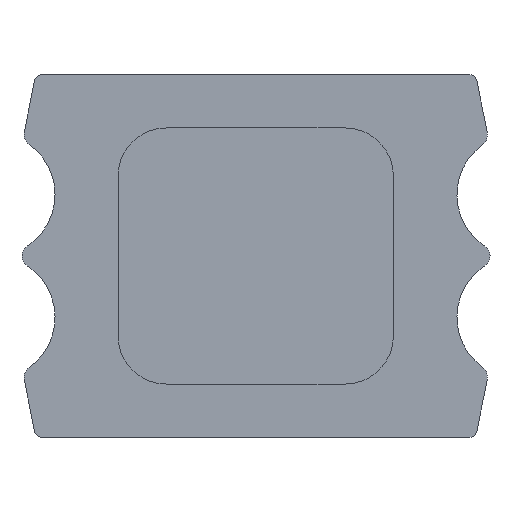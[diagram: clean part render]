
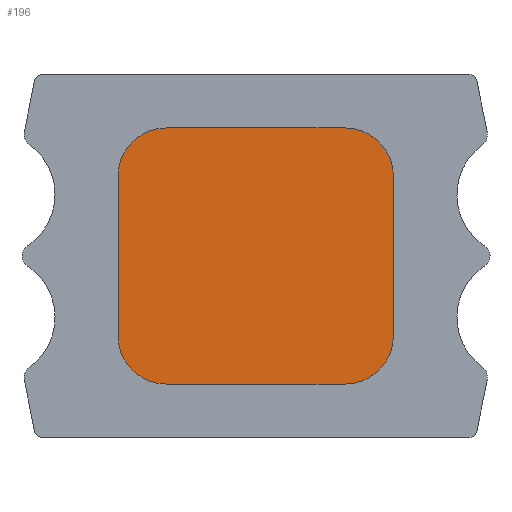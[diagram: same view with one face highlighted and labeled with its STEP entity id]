
A CAD part, left-side view. The second image highlights one B-rep face of the part: STEP entity #196.
In plain terms, the highlighted planar face has unit normal (-1, 0, 0).
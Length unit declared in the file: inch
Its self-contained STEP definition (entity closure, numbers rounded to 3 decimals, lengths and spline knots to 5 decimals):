
#1 = LINE ( 'NONE', #42, #199 ) ;
#42 = CARTESIAN_POINT ( 'NONE',  ( -3.14567, 5.38568, -5.10086 ) ) ;
#51 = CIRCLE ( 'NONE', #867, 0.07874 ) ;
#77 = VERTEX_POINT ( 'NONE', #106 ) ;
#88 = ORIENTED_EDGE ( 'NONE', *, *, #830, .F. ) ;
#106 = CARTESIAN_POINT ( 'NONE',  ( -3.14567, 5.46442, -5.43944 ) ) ;
#107 = VERTEX_POINT ( 'NONE', #180 ) ;
#140 = EDGE_CURVE ( 'NONE', #888, #77, #51, .T. ) ;
#150 = CARTESIAN_POINT ( 'NONE',  ( -3.14567, 5.8345, -5.10086 ) ) ;
#180 = CARTESIAN_POINT ( 'NONE',  ( -3.14567, 5.46442, -5.02212 ) ) ;
#196 = ADVANCED_FACE ( 'NONE', ( #591 ), #473, .T. ) ;
#199 = VECTOR ( 'NONE', #683, 39.37008 ) ;
#285 = ORIENTED_EDGE ( 'NONE', *, *, #895, .F. ) ;
#288 = EDGE_CURVE ( 'NONE', #579, #107, #346, .T. ) ;
#300 = EDGE_CURVE ( 'NONE', #464, #579, #569, .T. ) ;
#307 = DIRECTION ( 'NONE',  ( 0., 0., 1. ) ) ;
#314 = EDGE_CURVE ( 'NONE', #77, #586, #437, .T. ) ;
#338 = VECTOR ( 'NONE', #679, 39.37008 ) ;
#346 = LINE ( 'NONE', #960, #906 ) ;
#359 = CARTESIAN_POINT ( 'NONE',  ( -3.14567, 5.46442, -5.10086 ) ) ;
#372 = ORIENTED_EDGE ( 'NONE', *, *, #922, .F. ) ;
#380 = VERTEX_POINT ( 'NONE', #634 ) ;
#401 = CARTESIAN_POINT ( 'NONE',  ( -3.14567, 5.8345, -5.3607 ) ) ;
#415 = CARTESIAN_POINT ( 'NONE',  ( -3.14567, 5.38568, -5.02212 ) ) ;
#418 = ORIENTED_EDGE ( 'NONE', *, *, #314, .F. ) ;
#437 = LINE ( 'NONE', #908, #338 ) ;
#438 = DIRECTION ( 'NONE',  ( 1., 0., 0. ) ) ;
#441 = DIRECTION ( 'NONE',  ( 0., 0., 1. ) ) ;
#458 = DIRECTION ( 'NONE',  ( 0., 0., 1. ) ) ;
#464 = VERTEX_POINT ( 'NONE', #939 ) ;
#473 = PLANE ( 'NONE',  #853 ) ;
#492 = DIRECTION ( 'NONE',  ( -1., 0., 0. ) ) ;
#499 = DIRECTION ( 'NONE',  ( 0., 0., 1. ) ) ;
#517 = DIRECTION ( 'NONE',  ( 1., 0., 0. ) ) ;
#518 = CIRCLE ( 'NONE', #803, 0.07874 ) ;
#526 = CARTESIAN_POINT ( 'NONE',  ( -3.14567, 5.46442, -5.3607 ) ) ;
#549 = ORIENTED_EDGE ( 'NONE', *, *, #731, .F. ) ;
#566 = LINE ( 'NONE', #150, #948 ) ;
#569 = CIRCLE ( 'NONE', #845, 0.07874 ) ;
#579 = VERTEX_POINT ( 'NONE', #918 ) ;
#586 = VERTEX_POINT ( 'NONE', #598 ) ;
#591 = FACE_OUTER_BOUND ( 'NONE', #821, .T. ) ;
#598 = CARTESIAN_POINT ( 'NONE',  ( -3.14567, 5.75576, -5.43944 ) ) ;
#617 = VERTEX_POINT ( 'NONE', #401 ) ;
#626 = DIRECTION ( 'NONE',  ( 0., -1., 0. ) ) ;
#634 = CARTESIAN_POINT ( 'NONE',  ( -3.14567, 5.38568, -5.10086 ) ) ;
#645 = ORIENTED_EDGE ( 'NONE', *, *, #288, .F. ) ;
#679 = DIRECTION ( 'NONE',  ( 0., 1., 0. ) ) ;
#683 = DIRECTION ( 'NONE',  ( 0., 0., -1. ) ) ;
#694 = ORIENTED_EDGE ( 'NONE', *, *, #300, .F. ) ;
#731 = EDGE_CURVE ( 'NONE', #586, #617, #518, .T. ) ;
#766 = AXIS2_PLACEMENT_3D ( 'NONE', #359, #975, #441 ) ;
#778 = CARTESIAN_POINT ( 'NONE',  ( -3.14567, 5.75576, -5.10086 ) ) ;
#783 = DIRECTION ( 'NONE',  ( 1., 0., 0. ) ) ;
#802 = CIRCLE ( 'NONE', #766, 0.07874 ) ;
#803 = AXIS2_PLACEMENT_3D ( 'NONE', #953, #438, #1026 ) ;
#821 = EDGE_LOOP ( 'NONE', ( #549, #418, #1082, #88, #372, #645, #694, #285 ) ) ;
#830 = EDGE_CURVE ( 'NONE', #380, #888, #1, .T. ) ;
#845 = AXIS2_PLACEMENT_3D ( 'NONE', #778, #783, #969 ) ;
#853 = AXIS2_PLACEMENT_3D ( 'NONE', #415, #492, #499 ) ;
#867 = AXIS2_PLACEMENT_3D ( 'NONE', #526, #517, #458 ) ;
#888 = VERTEX_POINT ( 'NONE', #1074 ) ;
#895 = EDGE_CURVE ( 'NONE', #617, #464, #566, .T. ) ;
#906 = VECTOR ( 'NONE', #626, 39.37008 ) ;
#908 = CARTESIAN_POINT ( 'NONE',  ( -3.14567, 5.75576, -5.43944 ) ) ;
#918 = CARTESIAN_POINT ( 'NONE',  ( -3.14567, 5.75576, -5.02212 ) ) ;
#922 = EDGE_CURVE ( 'NONE', #107, #380, #802, .T. ) ;
#939 = CARTESIAN_POINT ( 'NONE',  ( -3.14567, 5.8345, -5.10086 ) ) ;
#948 = VECTOR ( 'NONE', #307, 39.37008 ) ;
#953 = CARTESIAN_POINT ( 'NONE',  ( -3.14567, 5.75576, -5.3607 ) ) ;
#960 = CARTESIAN_POINT ( 'NONE',  ( -3.14567, 5.46442, -5.02212 ) ) ;
#969 = DIRECTION ( 'NONE',  ( 0., 0., 1. ) ) ;
#975 = DIRECTION ( 'NONE',  ( 1., 0., 0. ) ) ;
#1026 = DIRECTION ( 'NONE',  ( 0., 0., 1. ) ) ;
#1074 = CARTESIAN_POINT ( 'NONE',  ( -3.14567, 5.38568, -5.3607 ) ) ;
#1082 = ORIENTED_EDGE ( 'NONE', *, *, #140, .F. ) ;
